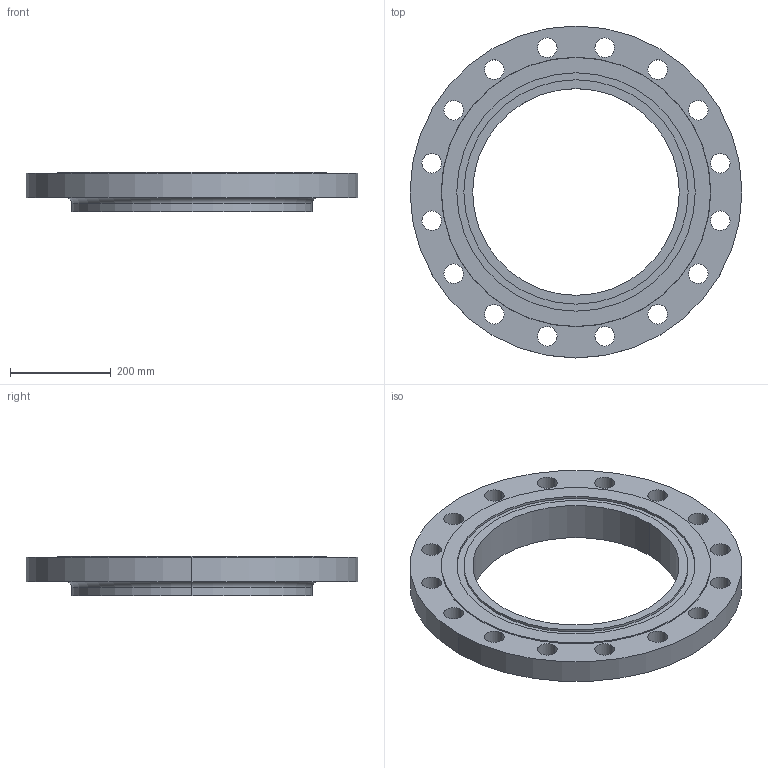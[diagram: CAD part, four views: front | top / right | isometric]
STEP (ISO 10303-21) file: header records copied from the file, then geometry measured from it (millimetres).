
FILE_DESCRIPTION (( 'STEP AP214' ), '1' );
FILE_NAME ('PN40 DN400 Type 12 - Type D Face.STEP', '2019-01-05T23:17:37', ( '' ), ( '' ), 'SwSTEP 2.0', 'SolidWorks 2019', '' );
FILE_SCHEMA (( 'AUTOMOTIVE_DESIGN' ));
Length unit declared in the file: millimetre
Products named in the file (1): PN40 DN400 Type 12 - Type D Face
Bounding box: 660 x 660 x 78 mm (x, y, z)
Volume: 10576595.4 mm3; surface area: 726657.9 mm2
Topology: 1 solids, 1 shells, 52 faces, 136 edges, 90 vertices
Faces by surface type: cylinder 42, plane 6, torus 2, cone 2
Entity records: 1758 total; most frequent: DIRECTION 334, CARTESIAN_POINT 279, ORIENTED_EDGE 272, AXIS2_PLACEMENT_3D 145, EDGE_CURVE 136, CIRCLE 92, EDGE_LOOP 90, VERTEX_POINT 90
